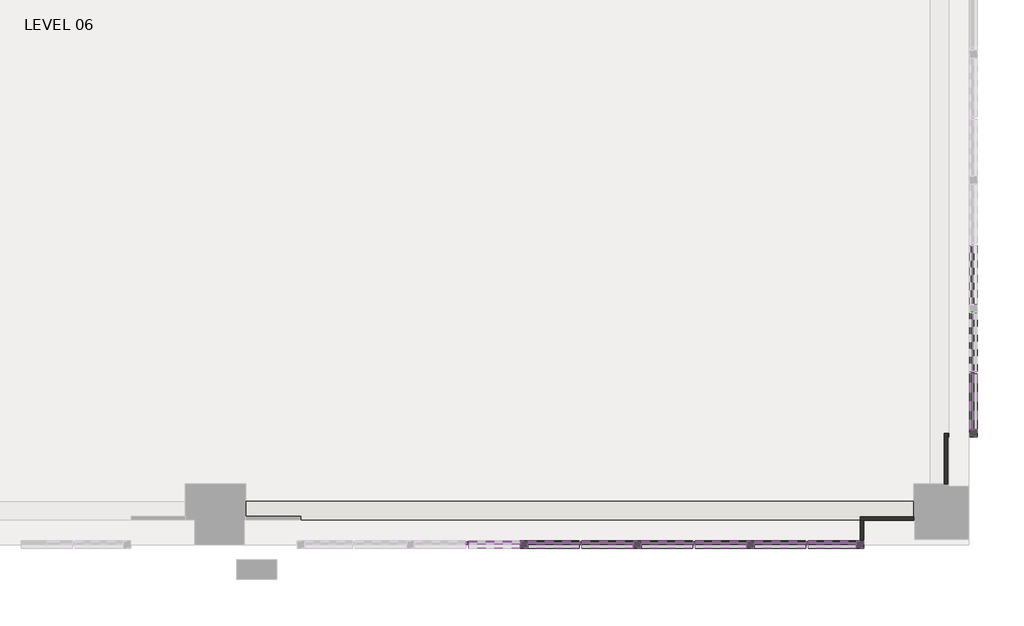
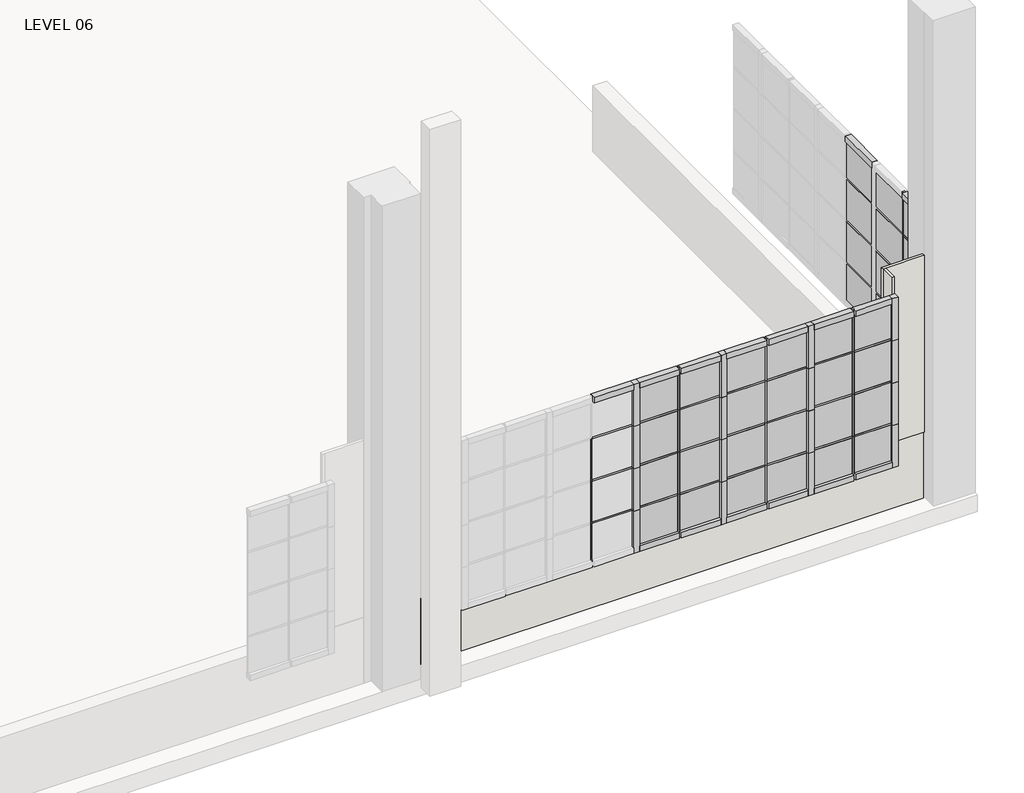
# One storey, part 7 of 16: 80 members, 36 plates, 5 walls.
"""IFC4 building model written with IfcOpenShell, lengths in millimetres."""

from ifc_helpers import new_model, si_unit, frame, origin, place, context, project, spatial, polyline, outline, extrude, faceted_brep, transform, mapped, element, save
from components import member_78bb2ef1, member_cb03ba1c, member_aa53491b, member_0337d645, member_c1b5942e, member_9d26962d, member_378e0c06, member_17eb62f4, member_d1b01063, member_a415275a, system_panel_glazed_79ade883, system_panel_glazed_12cc9f41, system_panel_glazed_730530c4, system_panel_glazed_b8d6571b, system_panel_glazed_fe6fc7be, system_panel_glazed_a8cc2c5f, system_panel_glazed_92f702fb, system_panel_glazed_d94367f6

model = new_model("IFC4")

# Units and contexts
model_context = context("Model", 3, world=origin())
ifc_project = project(units=[si_unit("LENGTHUNIT", "METRE", prefix="MILLI")], contexts=[model_context])

# Site, building, storey
site = spatial("IfcSite", under=ifc_project)
building = spatial("IfcBuilding", under=site)
storey = spatial("IfcBuildingStorey", under=building, Name="LEVEL 06", Elevation=17449.8)

# Members
placement = place(None, origin())
member_shape = member_78bb2ef1(model_context)
element("IfcMember", 1, ObjectType="Rectangular Mullion : 1\" x 1\" - Butt Joint", at=placement, inside=storey, context=model_context, shape_type="MappedRepresentation", body=[
    mapped(member_shape, transform((-4380.1471136, -25119.8112062, 19989.8), x_axis=(1.0, 0.0, 0.0), y_axis=(0.0, -1.0, 0.0), z_axis=(0.0, 0.0, -1.0))),
])
element("IfcMember", 2, ObjectType="Rectangular Mullion : 1\" x 1\" - Butt Joint", at=placement, inside=storey, context=model_context, shape_type="MappedRepresentation", body=[
    mapped(member_shape, transform((-3242.2271136, -25119.8112062, 19989.8), x_axis=(1.0, 0.0, 0.0), y_axis=(0.0, -1.0, 0.0), z_axis=(0.0, 0.0, -1.0))),
])
element("IfcMember", 3, ObjectType="Rectangular Mullion : 1\" x 1\" - Butt Joint", at=placement, inside=storey, context=model_context, shape_type="MappedRepresentation", body=[
    mapped(member_shape, transform((-2104.3071136, -25119.8112062, 19989.8), x_axis=(1.0, 0.0, 0.0), y_axis=(0.0, -1.0, 0.0), z_axis=(0.0, 0.0, -1.0))),
])
element("IfcMember", 4, ObjectType="Rectangular Mullion : 1\" x 1\" - Butt Joint", at=placement, inside=storey, context=model_context, shape_type="MappedRepresentation", body=[
    mapped(member_shape, transform((-445.6849596, -23406.9972314, 19989.8), x_axis=(0.0, 1.0, 0.0), y_axis=(1.0, 0.0, 0.0), z_axis=(0.0, 0.0, -1.0))),
])
member_2_shape = member_cb03ba1c(model_context)
element("IfcMember", 5, ObjectType="Rectangular Mullion : 1\" x 1\" - Butt Joint", at=placement, inside=storey, context=model_context, shape_type="MappedRepresentation", body=[
    mapped(member_2_shape, transform((-2711.3671136, -25119.8112062, 19989.8), x_axis=(0.0, 0.0, 1.0), y_axis=(0.0, -1.0, 0.0), z_axis=(1.0, 0.0, 0.0))),
])
element("IfcMember", 6, ObjectType="Rectangular Mullion : 1\" x 1\" - Butt Joint", at=placement, inside=storey, context=model_context, shape_type="MappedRepresentation", body=[
    mapped(member_2_shape, transform((-3849.2871136, -25119.8112062, 19989.8), x_axis=(0.0, 0.0, 1.0), y_axis=(0.0, -1.0, 0.0), z_axis=(1.0, 0.0, 0.0))),
])
element("IfcMember", 7, ObjectType="Rectangular Mullion : 1\" x 1\" - Butt Joint", at=placement, inside=storey, context=model_context, shape_type="MappedRepresentation", body=[
    mapped(member_2_shape, transform((-4987.2071136, -25119.8112062, 19989.8), x_axis=(0.0, 0.0, 1.0), y_axis=(0.0, -1.0, 0.0), z_axis=(1.0, 0.0, 0.0))),
])
element("IfcMember", 8, ObjectType="Rectangular Mullion : 1\" x 1\" - Butt Joint", at=placement, inside=storey, context=model_context, shape_type="MappedRepresentation", body=[
    mapped(member_2_shape, transform((-2117.0071136, -25119.8112062, 19989.8), x_axis=(0.0, 0.0, 1.0), y_axis=(0.0, -1.0, 0.0), z_axis=(1.0, 0.0, 0.0))),
])
element("IfcMember", 9, ObjectType="Rectangular Mullion : 1\" x 1\" - Butt Joint", at=placement, inside=storey, context=model_context, shape_type="MappedRepresentation", body=[
    mapped(member_2_shape, transform((-3254.9271136, -25119.8112062, 19989.8), x_axis=(0.0, 0.0, 1.0), y_axis=(0.0, -1.0, 0.0), z_axis=(1.0, 0.0, 0.0))),
])
element("IfcMember", 10, ObjectType="Rectangular Mullion : 1\" x 1\" - Butt Joint", at=placement, inside=storey, context=model_context, shape_type="MappedRepresentation", body=[
    mapped(member_2_shape, transform((-4392.8471136, -25119.8112062, 19989.8), x_axis=(0.0, 0.0, 1.0), y_axis=(0.0, -1.0, 0.0), z_axis=(1.0, 0.0, 0.0))),
])
element("IfcMember", 11, ObjectType="Rectangular Mullion : 1\" x 1\" - Butt Joint", at=placement, inside=storey, context=model_context, shape_type="MappedRepresentation", body=[
    mapped(member_2_shape, transform((-2711.3671136, -25119.8112062, 19405.6), x_axis=(0.0, 0.0, 1.0), y_axis=(0.0, -1.0, 0.0), z_axis=(1.0, 0.0, 0.0))),
])
element("IfcMember", 12, ObjectType="Rectangular Mullion : 1\" x 1\" - Butt Joint", at=placement, inside=storey, context=model_context, shape_type="MappedRepresentation", body=[
    mapped(member_2_shape, transform((-3849.2871136, -25119.8112062, 19405.6), x_axis=(0.0, 0.0, 1.0), y_axis=(0.0, -1.0, 0.0), z_axis=(1.0, 0.0, 0.0))),
])
element("IfcMember", 13, ObjectType="Rectangular Mullion : 1\" x 1\" - Butt Joint", at=placement, inside=storey, context=model_context, shape_type="MappedRepresentation", body=[
    mapped(member_2_shape, transform((-4987.2071136, -25119.8112062, 19405.6), x_axis=(0.0, 0.0, 1.0), y_axis=(0.0, -1.0, 0.0), z_axis=(1.0, 0.0, 0.0))),
])
element("IfcMember", 14, ObjectType="Rectangular Mullion : 1\" x 1\" - Butt Joint", at=placement, inside=storey, context=model_context, shape_type="MappedRepresentation", body=[
    mapped(member_2_shape, transform((-2117.0071136, -25119.8112062, 19405.6), x_axis=(0.0, 0.0, 1.0), y_axis=(0.0, -1.0, 0.0), z_axis=(1.0, 0.0, 0.0))),
])
element("IfcMember", 15, ObjectType="Rectangular Mullion : 1\" x 1\" - Butt Joint", at=placement, inside=storey, context=model_context, shape_type="MappedRepresentation", body=[
    mapped(member_2_shape, transform((-3254.9271136, -25119.8112062, 19405.6), x_axis=(0.0, 0.0, 1.0), y_axis=(0.0, -1.0, 0.0), z_axis=(1.0, 0.0, 0.0))),
])
element("IfcMember", 16, ObjectType="Rectangular Mullion : 1\" x 1\" - Butt Joint", at=placement, inside=storey, context=model_context, shape_type="MappedRepresentation", body=[
    mapped(member_2_shape, transform((-4392.8471136, -25119.8112062, 19405.6), x_axis=(0.0, 0.0, 1.0), y_axis=(0.0, -1.0, 0.0), z_axis=(1.0, 0.0, 0.0))),
])
element("IfcMember", 17, ObjectType="Rectangular Mullion : 1\" x 1\" - Butt Joint", at=placement, inside=storey, context=model_context, shape_type="MappedRepresentation", body=[
    mapped(member_2_shape, transform((-2711.3671136, -25119.8112062, 18821.4), x_axis=(0.0, 0.0, 1.0), y_axis=(0.0, -1.0, 0.0), z_axis=(1.0, 0.0, 0.0))),
])
element("IfcMember", 18, ObjectType="Rectangular Mullion : 1\" x 1\" - Butt Joint", at=placement, inside=storey, context=model_context, shape_type="MappedRepresentation", body=[
    mapped(member_2_shape, transform((-3849.2871136, -25119.8112062, 18821.4), x_axis=(0.0, 0.0, 1.0), y_axis=(0.0, -1.0, 0.0), z_axis=(1.0, 0.0, 0.0))),
])
element("IfcMember", 19, ObjectType="Rectangular Mullion : 1\" x 1\" - Butt Joint", at=placement, inside=storey, context=model_context, shape_type="MappedRepresentation", body=[
    mapped(member_2_shape, transform((-4987.2071136, -25119.8112062, 18821.4), x_axis=(0.0, 0.0, 1.0), y_axis=(0.0, -1.0, 0.0), z_axis=(1.0, 0.0, 0.0))),
])
element("IfcMember", 20, ObjectType="Rectangular Mullion : 1\" x 1\" - Butt Joint", at=placement, inside=storey, context=model_context, shape_type="MappedRepresentation", body=[
    mapped(member_2_shape, transform((-2117.0071136, -25119.8112062, 18821.4), x_axis=(0.0, 0.0, 1.0), y_axis=(0.0, -1.0, 0.0), z_axis=(1.0, 0.0, 0.0))),
])
element("IfcMember", 21, ObjectType="Rectangular Mullion : 1\" x 1\" - Butt Joint", at=placement, inside=storey, context=model_context, shape_type="MappedRepresentation", body=[
    mapped(member_2_shape, transform((-3254.9271136, -25119.8112062, 18821.4), x_axis=(0.0, 0.0, 1.0), y_axis=(0.0, -1.0, 0.0), z_axis=(1.0, 0.0, 0.0))),
])
element("IfcMember", 22, ObjectType="Rectangular Mullion : 1\" x 1\" - Butt Joint", at=placement, inside=storey, context=model_context, shape_type="MappedRepresentation", body=[
    mapped(member_2_shape, transform((-4392.8471136, -25119.8112062, 18821.4), x_axis=(0.0, 0.0, 1.0), y_axis=(0.0, -1.0, 0.0), z_axis=(1.0, 0.0, 0.0))),
])
member_3_shape = member_aa53491b(model_context)
element("IfcMember", 23, ObjectType="Rectangular Mullion : 1\" x 1\" - Butt Joint", at=placement, inside=storey, context=model_context, shape_type="MappedRepresentation", body=[
    mapped(member_3_shape, transform((-1611.5471136, -25119.8112062, 19989.8), x_axis=(0.0, 0.0, 1.0), y_axis=(0.0, -1.0, 0.0), z_axis=(1.0, 0.0, 0.0))),
])
element("IfcMember", 24, ObjectType="Rectangular Mullion : 1\" x 1\" - Butt Joint", at=placement, inside=storey, context=model_context, shape_type="MappedRepresentation", body=[
    mapped(member_3_shape, transform((-1611.5471136, -25119.8112062, 19405.6), x_axis=(0.0, 0.0, 1.0), y_axis=(0.0, -1.0, 0.0), z_axis=(1.0, 0.0, 0.0))),
])
element("IfcMember", 25, ObjectType="Rectangular Mullion : 1\" x 1\" - Butt Joint", at=placement, inside=storey, context=model_context, shape_type="MappedRepresentation", body=[
    mapped(member_3_shape, transform((-1611.5471136, -25119.8112062, 18821.4), x_axis=(0.0, 0.0, 1.0), y_axis=(0.0, -1.0, 0.0), z_axis=(1.0, 0.0, 0.0))),
])
element("IfcMember", 26, ObjectType="Rectangular Mullion : 1\" x 1\" - Butt Joint", at=placement, inside=storey, context=model_context, shape_type="MappedRepresentation", body=[
    mapped(member_shape, transform((-5518.0671136, -25119.8112062, 19405.6), x_axis=(1.0, 0.0, 0.0), y_axis=(0.0, -1.0, 0.0), z_axis=(0.0, 0.0, -1.0))),
])
element("IfcMember", 27, ObjectType="Rectangular Mullion : 1\" x 1\" - Butt Joint", at=placement, inside=storey, context=model_context, shape_type="MappedRepresentation", body=[
    mapped(member_shape, transform((-5518.0671136, -25119.8112062, 18821.4), x_axis=(1.0, 0.0, 0.0), y_axis=(0.0, -1.0, 0.0), z_axis=(0.0, 0.0, -1.0))),
])
element("IfcMember", 28, ObjectType="Rectangular Mullion : 1\" x 1\" - Butt Joint", at=placement, inside=storey, context=model_context, shape_type="MappedRepresentation", body=[
    mapped(member_shape, transform((-4380.1471136, -25119.8112062, 19405.6), x_axis=(1.0, 0.0, 0.0), y_axis=(0.0, -1.0, 0.0), z_axis=(0.0, 0.0, -1.0))),
])
element("IfcMember", 29, ObjectType="Rectangular Mullion : 1\" x 1\" - Butt Joint", at=placement, inside=storey, context=model_context, shape_type="MappedRepresentation", body=[
    mapped(member_shape, transform((-4380.1471136, -25119.8112062, 18821.4), x_axis=(1.0, 0.0, 0.0), y_axis=(0.0, -1.0, 0.0), z_axis=(0.0, 0.0, -1.0))),
])
element("IfcMember", 30, ObjectType="Rectangular Mullion : 1\" x 1\" - Butt Joint", at=placement, inside=storey, context=model_context, shape_type="MappedRepresentation", body=[
    mapped(member_shape, transform((-3242.2271136, -25119.8112062, 19405.6), x_axis=(1.0, 0.0, 0.0), y_axis=(0.0, -1.0, 0.0), z_axis=(0.0, 0.0, -1.0))),
])
element("IfcMember", 31, ObjectType="Rectangular Mullion : 1\" x 1\" - Butt Joint", at=placement, inside=storey, context=model_context, shape_type="MappedRepresentation", body=[
    mapped(member_shape, transform((-3242.2271136, -25119.8112062, 18821.4), x_axis=(1.0, 0.0, 0.0), y_axis=(0.0, -1.0, 0.0), z_axis=(0.0, 0.0, -1.0))),
])
element("IfcMember", 32, ObjectType="Rectangular Mullion : 1\" x 1\" - Butt Joint", at=placement, inside=storey, context=model_context, shape_type="MappedRepresentation", body=[
    mapped(member_shape, transform((-2104.3071136, -25119.8112062, 19405.6), x_axis=(1.0, 0.0, 0.0), y_axis=(0.0, -1.0, 0.0), z_axis=(0.0, 0.0, -1.0))),
])
element("IfcMember", 33, ObjectType="Rectangular Mullion : 1\" x 1\" - Butt Joint", at=placement, inside=storey, context=model_context, shape_type="MappedRepresentation", body=[
    mapped(member_shape, transform((-2104.3071136, -25119.8112062, 18821.4), x_axis=(1.0, 0.0, 0.0), y_axis=(0.0, -1.0, 0.0), z_axis=(0.0, 0.0, -1.0))),
])
element("IfcMember", 34, ObjectType="Rectangular Mullion : 1\" x 1\" - Butt Joint", at=placement, inside=storey, context=model_context, shape_type="MappedRepresentation", body=[
    mapped(member_shape, transform((-445.6849596, -23406.9972314, 18821.4), x_axis=(0.0, 1.0, 0.0), y_axis=(1.0, 0.0, 0.0), z_axis=(0.0, 0.0, -1.0))),
])
element("IfcMember", 35, ObjectType="Rectangular Mullion : 1\" x 1\" - Butt Joint", at=placement, inside=storey, context=model_context, shape_type="MappedRepresentation", body=[
    mapped(member_shape, transform((-445.6849596, -23406.9972314, 19405.6), x_axis=(0.0, 1.0, 0.0), y_axis=(1.0, 0.0, 0.0), z_axis=(0.0, 0.0, -1.0))),
])
element("IfcMember", 36, ObjectType="Rectangular Mullion : 1\" x 1\" - Butt Joint", at=placement, inside=storey, context=model_context, shape_type="MappedRepresentation", body=[
    mapped(member_shape, transform((-5518.0671136, -25119.8112062, 18237.2), x_axis=(1.0, 0.0, 0.0), y_axis=(0.0, -1.0, 0.0), z_axis=(0.0, 0.0, -1.0))),
])
element("IfcMember", 37, ObjectType="Rectangular Mullion : 1\" x 1\" - Butt Joint", at=placement, inside=storey, context=model_context, shape_type="MappedRepresentation", body=[
    mapped(member_shape, transform((-4380.1471136, -25119.8112062, 18237.2), x_axis=(1.0, 0.0, 0.0), y_axis=(0.0, -1.0, 0.0), z_axis=(0.0, 0.0, -1.0))),
])
element("IfcMember", 38, ObjectType="Rectangular Mullion : 1\" x 1\" - Butt Joint", at=placement, inside=storey, context=model_context, shape_type="MappedRepresentation", body=[
    mapped(member_shape, transform((-3242.2271136, -25119.8112062, 18237.2), x_axis=(1.0, 0.0, 0.0), y_axis=(0.0, -1.0, 0.0), z_axis=(0.0, 0.0, -1.0))),
])
element("IfcMember", 39, ObjectType="Rectangular Mullion : 1\" x 1\" - Butt Joint", at=placement, inside=storey, context=model_context, shape_type="MappedRepresentation", body=[
    mapped(member_shape, transform((-2104.3071136, -25119.8112062, 18237.2), x_axis=(1.0, 0.0, 0.0), y_axis=(0.0, -1.0, 0.0), z_axis=(0.0, 0.0, -1.0))),
])
element("IfcMember", 40, ObjectType="Rectangular Mullion : 1\" x 1\" - Butt Joint", at=placement, inside=storey, context=model_context, shape_type="MappedRepresentation", body=[
    mapped(member_shape, transform((-445.6849596, -23406.9972314, 18237.2), x_axis=(0.0, 1.0, 0.0), y_axis=(1.0, 0.0, 0.0), z_axis=(0.0, 0.0, -1.0))),
])
member_4_shape = member_0337d645(model_context)
element("IfcMember", 41, ObjectType="Rectangular Mullion : 1\" x 1\" - Butt Joint", at=placement, inside=storey, context=model_context, shape_type="MappedRepresentation", body=[
    mapped(member_4_shape, transform((-445.6849596, -23419.6972314, 19989.8), x_axis=(0.0, 0.0, 1.0), y_axis=(1.0, 0.0, 0.0), z_axis=(0.0, 1.0, 0.0))),
])
element("IfcMember", 42, ObjectType="Rectangular Mullion : 1\" x 1\" - Butt Joint", at=placement, inside=storey, context=model_context, shape_type="MappedRepresentation", body=[
    mapped(member_4_shape, transform((-445.6849596, -23419.6972314, 19405.6), x_axis=(0.0, 0.0, 1.0), y_axis=(1.0, 0.0, 0.0), z_axis=(0.0, 1.0, 0.0))),
])
element("IfcMember", 43, ObjectType="Rectangular Mullion : 1\" x 1\" - Butt Joint", at=placement, inside=storey, context=model_context, shape_type="MappedRepresentation", body=[
    mapped(member_4_shape, transform((-445.6849596, -23419.6972314, 18821.4), x_axis=(0.0, 0.0, 1.0), y_axis=(1.0, 0.0, 0.0), z_axis=(0.0, 1.0, 0.0))),
])
member_5_shape = member_c1b5942e(model_context)
element("IfcMember", 44, ObjectType="Rectangular Mullion : 3\" x 3\" Window Jamb", at=placement, inside=storey, context=model_context, shape_type="MappedRepresentation", body=[
    mapped(member_5_shape, transform((-3229.5271136, -25119.8112062, 18237.2), x_axis=(0.0, 0.0, -1.0), y_axis=(0.0, -1.0, 0.0), z_axis=(-1.0, 0.0, 0.0))),
])
element("IfcMember", 45, ObjectType="Rectangular Mullion : 3\" x 3\" Window Jamb", at=placement, inside=storey, context=model_context, shape_type="MappedRepresentation", body=[
    mapped(member_5_shape, transform((-4367.4471136, -25119.8112062, 18237.2), x_axis=(0.0, 0.0, -1.0), y_axis=(0.0, -1.0, 0.0), z_axis=(-1.0, 0.0, 0.0))),
])
element("IfcMember", 46, ObjectType="Rectangular Mullion : 3\" x 3\" Window Jamb", at=placement, inside=storey, context=model_context, shape_type="MappedRepresentation", body=[
    mapped(member_5_shape, transform((-2635.1671136, -25119.8112062, 18237.2), x_axis=(0.0, 0.0, -1.0), y_axis=(0.0, -1.0, 0.0), z_axis=(-1.0, 0.0, 0.0))),
])
element("IfcMember", 47, ObjectType="Rectangular Mullion : 3\" x 3\" Window Jamb", at=placement, inside=storey, context=model_context, shape_type="MappedRepresentation", body=[
    mapped(member_5_shape, transform((-3773.0871136, -25119.8112062, 18237.2), x_axis=(0.0, 0.0, -1.0), y_axis=(0.0, -1.0, 0.0), z_axis=(-1.0, 0.0, 0.0))),
])
element("IfcMember", 48, ObjectType="Rectangular Mullion : 3\" x 3\" Window Jamb", at=placement, inside=storey, context=model_context, shape_type="MappedRepresentation", body=[
    mapped(member_5_shape, transform((-4911.0071136, -25119.8112062, 18237.2), x_axis=(0.0, 0.0, -1.0), y_axis=(0.0, -1.0, 0.0), z_axis=(-1.0, 0.0, 0.0))),
])
member_6_shape = member_9d26962d(model_context)
element("IfcMember", 49, ObjectType="Rectangular Mullion : 3\" x 3\" Window Jamb", at=placement, inside=storey, context=model_context, shape_type="MappedRepresentation", body=[
    mapped(member_6_shape, transform((-2091.6071136, -25119.8112062, 18237.2), x_axis=(0.0, 0.0, -1.0), y_axis=(0.0, -1.0, 0.0), z_axis=(-1.0, 0.0, 0.0))),
])
element("IfcMember", 50, ObjectType="Rectangular Mullion : 3\" x 3\" Window Jamb", at=placement, inside=storey, context=model_context, shape_type="MappedRepresentation", body=[
    mapped(member_6_shape, transform((-1611.5471136, -25119.8112062, 20574.0), x_axis=(0.0, 0.0, 1.0), y_axis=(0.0, -1.0, 0.0), z_axis=(1.0, 0.0, 0.0))),
])
element("IfcMember", 51, ObjectType="Rectangular Mullion : 3\" x 3\" Window Jamb", at=placement, inside=storey, context=model_context, shape_type="MappedRepresentation", body=[
    mapped(member_5_shape, transform((-2117.0071136, -25119.8112062, 20574.0), x_axis=(0.0, 0.0, 1.0), y_axis=(0.0, -1.0, 0.0), z_axis=(1.0, 0.0, 0.0))),
])
element("IfcMember", 52, ObjectType="Rectangular Mullion : 3\" x 3\" Window Jamb", at=placement, inside=storey, context=model_context, shape_type="MappedRepresentation", body=[
    mapped(member_5_shape, transform((-3254.9271136, -25119.8112062, 20574.0), x_axis=(0.0, 0.0, 1.0), y_axis=(0.0, -1.0, 0.0), z_axis=(1.0, 0.0, 0.0))),
])
element("IfcMember", 53, ObjectType="Rectangular Mullion : 3\" x 3\" Window Jamb", at=placement, inside=storey, context=model_context, shape_type="MappedRepresentation", body=[
    mapped(member_5_shape, transform((-4392.8471136, -25119.8112062, 20574.0), x_axis=(0.0, 0.0, 1.0), y_axis=(0.0, -1.0, 0.0), z_axis=(1.0, 0.0, 0.0))),
])
element("IfcMember", 54, ObjectType="Rectangular Mullion : 3\" x 3\" Window Jamb", at=placement, inside=storey, context=model_context, shape_type="MappedRepresentation", body=[
    mapped(member_5_shape, transform((-2711.3671136, -25119.8112062, 20574.0), x_axis=(0.0, 0.0, 1.0), y_axis=(0.0, -1.0, 0.0), z_axis=(1.0, 0.0, 0.0))),
])
element("IfcMember", 55, ObjectType="Rectangular Mullion : 3\" x 3\" Window Jamb", at=placement, inside=storey, context=model_context, shape_type="MappedRepresentation", body=[
    mapped(member_5_shape, transform((-3849.2871136, -25119.8112062, 20574.0), x_axis=(0.0, 0.0, 1.0), y_axis=(0.0, -1.0, 0.0), z_axis=(1.0, 0.0, 0.0))),
])
element("IfcMember", 56, ObjectType="Rectangular Mullion : 3\" x 3\" Window Jamb", at=placement, inside=storey, context=model_context, shape_type="MappedRepresentation", body=[
    mapped(member_5_shape, transform((-4987.2071136, -25119.8112062, 20574.0), x_axis=(0.0, 0.0, 1.0), y_axis=(0.0, -1.0, 0.0), z_axis=(1.0, 0.0, 0.0))),
])
member_7_shape = member_378e0c06(model_context)
element("IfcMember", 57, ObjectType="Rectangular Mullion : 3\" x 3\" Window Jamb", at=placement, inside=storey, context=model_context, shape_type="MappedRepresentation", body=[
    mapped(member_7_shape, transform((-4949.1071136, -25119.8112062, 19989.8), x_axis=(1.0, 0.0, 0.0), y_axis=(0.0, -1.0, 0.0), z_axis=(0.0, 0.0, -1.0))),
])
element("IfcMember", 58, ObjectType="Rectangular Mullion : 3\" x 3\" Window Jamb", at=placement, inside=storey, context=model_context, shape_type="MappedRepresentation", body=[
    mapped(member_7_shape, transform((-3811.1871136, -25119.8112062, 19989.8), x_axis=(1.0, 0.0, 0.0), y_axis=(0.0, -1.0, 0.0), z_axis=(0.0, 0.0, -1.0))),
])
element("IfcMember", 59, ObjectType="Rectangular Mullion : 3\" x 3\" Window Jamb", at=placement, inside=storey, context=model_context, shape_type="MappedRepresentation", body=[
    mapped(member_7_shape, transform((-2673.2671136, -25119.8112062, 19989.8), x_axis=(1.0, 0.0, 0.0), y_axis=(0.0, -1.0, 0.0), z_axis=(0.0, 0.0, -1.0))),
])
member_8_shape = member_17eb62f4(model_context)
element("IfcMember", 60, ObjectType="Rectangular Mullion : 3\" x 3\" Window Jamb", at=placement, inside=storey, context=model_context, shape_type="MappedRepresentation", body=[
    mapped(member_8_shape, transform((-1535.3471136, -25119.8112062, 19989.8), x_axis=(1.0, 0.0, 0.0), y_axis=(0.0, -1.0, 0.0), z_axis=(0.0, 0.0, -1.0))),
])
element("IfcMember", 61, ObjectType="Rectangular Mullion : 3\" x 3\" Window Jamb", at=placement, inside=storey, context=model_context, shape_type="MappedRepresentation", body=[
    mapped(member_8_shape, transform((-445.6849596, -24052.1572314, 20574.0), x_axis=(0.0, -1.0, 0.0), y_axis=(1.0, 0.0, 0.0), z_axis=(0.0, 0.0, 1.0))),
])
element("IfcMember", 62, ObjectType="Rectangular Mullion : 3\" x 3\" Window Jamb", at=placement, inside=storey, context=model_context, shape_type="MappedRepresentation", body=[
    mapped(member_7_shape, transform((-4949.1071136, -25119.8112062, 19405.6), x_axis=(1.0, 0.0, 0.0), y_axis=(0.0, -1.0, 0.0), z_axis=(0.0, 0.0, -1.0))),
])
element("IfcMember", 63, ObjectType="Rectangular Mullion : 3\" x 3\" Window Jamb", at=placement, inside=storey, context=model_context, shape_type="MappedRepresentation", body=[
    mapped(member_7_shape, transform((-4949.1071136, -25119.8112062, 18821.4), x_axis=(1.0, 0.0, 0.0), y_axis=(0.0, -1.0, 0.0), z_axis=(0.0, 0.0, -1.0))),
])
element("IfcMember", 64, ObjectType="Rectangular Mullion : 3\" x 3\" Window Jamb", at=placement, inside=storey, context=model_context, shape_type="MappedRepresentation", body=[
    mapped(member_7_shape, transform((-3811.1871136, -25119.8112062, 19405.6), x_axis=(1.0, 0.0, 0.0), y_axis=(0.0, -1.0, 0.0), z_axis=(0.0, 0.0, -1.0))),
])
element("IfcMember", 65, ObjectType="Rectangular Mullion : 3\" x 3\" Window Jamb", at=placement, inside=storey, context=model_context, shape_type="MappedRepresentation", body=[
    mapped(member_7_shape, transform((-3811.1871136, -25119.8112062, 18821.4), x_axis=(1.0, 0.0, 0.0), y_axis=(0.0, -1.0, 0.0), z_axis=(0.0, 0.0, -1.0))),
])
element("IfcMember", 66, ObjectType="Rectangular Mullion : 3\" x 3\" Window Jamb", at=placement, inside=storey, context=model_context, shape_type="MappedRepresentation", body=[
    mapped(member_7_shape, transform((-2673.2671136, -25119.8112062, 19405.6), x_axis=(1.0, 0.0, 0.0), y_axis=(0.0, -1.0, 0.0), z_axis=(0.0, 0.0, -1.0))),
])
element("IfcMember", 67, ObjectType="Rectangular Mullion : 3\" x 3\" Window Jamb", at=placement, inside=storey, context=model_context, shape_type="MappedRepresentation", body=[
    mapped(member_7_shape, transform((-2673.2671136, -25119.8112062, 18821.4), x_axis=(1.0, 0.0, 0.0), y_axis=(0.0, -1.0, 0.0), z_axis=(0.0, 0.0, -1.0))),
])
element("IfcMember", 68, ObjectType="Rectangular Mullion : 3\" x 3\" Window Jamb", at=placement, inside=storey, context=model_context, shape_type="MappedRepresentation", body=[
    mapped(member_8_shape, transform((-1535.3471136, -25119.8112062, 19405.6), x_axis=(1.0, 0.0, 0.0), y_axis=(0.0, -1.0, 0.0), z_axis=(0.0, 0.0, -1.0))),
])
element("IfcMember", 69, ObjectType="Rectangular Mullion : 3\" x 3\" Window Jamb", at=placement, inside=storey, context=model_context, shape_type="MappedRepresentation", body=[
    mapped(member_8_shape, transform((-1535.3471136, -25119.8112062, 18821.4), x_axis=(1.0, 0.0, 0.0), y_axis=(0.0, -1.0, 0.0), z_axis=(0.0, 0.0, -1.0))),
])
element("IfcMember", 70, ObjectType="Rectangular Mullion : 3\" x 3\" Window Jamb", at=placement, inside=storey, context=model_context, shape_type="MappedRepresentation", body=[
    mapped(member_8_shape, transform((-445.6849596, -24052.1572314, 19989.8), x_axis=(0.0, -1.0, 0.0), y_axis=(1.0, 0.0, 0.0), z_axis=(0.0, 0.0, 1.0))),
])
element("IfcMember", 71, ObjectType="Rectangular Mullion : 3\" x 3\" Window Jamb", at=placement, inside=storey, context=model_context, shape_type="MappedRepresentation", body=[
    mapped(member_8_shape, transform((-445.6849596, -24052.1572314, 19405.6), x_axis=(0.0, -1.0, 0.0), y_axis=(1.0, 0.0, 0.0), z_axis=(0.0, 0.0, 1.0))),
])
element("IfcMember", 72, ObjectType="Rectangular Mullion : 3\" x 3\" Window Jamb", at=placement, inside=storey, context=model_context, shape_type="MappedRepresentation", body=[
    mapped(member_7_shape, transform((-4949.1071136, -25119.8112062, 18237.2), x_axis=(1.0, 0.0, 0.0), y_axis=(0.0, -1.0, 0.0), z_axis=(0.0, 0.0, -1.0))),
])
element("IfcMember", 73, ObjectType="Rectangular Mullion : 3\" x 3\" Window Jamb", at=placement, inside=storey, context=model_context, shape_type="MappedRepresentation", body=[
    mapped(member_7_shape, transform((-3811.1871136, -25119.8112062, 18237.2), x_axis=(1.0, 0.0, 0.0), y_axis=(0.0, -1.0, 0.0), z_axis=(0.0, 0.0, -1.0))),
])
element("IfcMember", 74, ObjectType="Rectangular Mullion : 3\" x 3\" Window Jamb", at=placement, inside=storey, context=model_context, shape_type="MappedRepresentation", body=[
    mapped(member_7_shape, transform((-2673.2671136, -25119.8112062, 18237.2), x_axis=(1.0, 0.0, 0.0), y_axis=(0.0, -1.0, 0.0), z_axis=(0.0, 0.0, -1.0))),
])
element("IfcMember", 75, ObjectType="Rectangular Mullion : 3\" x 3\" Window Jamb", at=placement, inside=storey, context=model_context, shape_type="MappedRepresentation", body=[
    mapped(member_8_shape, transform((-1535.3471136, -25119.8112062, 18237.2), x_axis=(1.0, 0.0, 0.0), y_axis=(0.0, -1.0, 0.0), z_axis=(0.0, 0.0, -1.0))),
])
element("IfcMember", 76, ObjectType="Rectangular Mullion : 3\" x 3\" Window Jamb", at=placement, inside=storey, context=model_context, shape_type="MappedRepresentation", body=[
    mapped(member_8_shape, transform((-445.6849596, -24052.1572314, 18821.4), x_axis=(0.0, -1.0, 0.0), y_axis=(1.0, 0.0, 0.0), z_axis=(0.0, 0.0, 1.0))),
])
member_9_shape = member_d1b01063(model_context)
element("IfcMember", 77, ObjectType="Rectangular Mullion : 3\" x 3\" Window Jamb", at=placement, inside=storey, context=model_context, shape_type="MappedRepresentation", body=[
    mapped(member_9_shape, transform((-445.6849596, -23419.6972314, 20574.0), x_axis=(0.0, 0.0, 1.0), y_axis=(1.0, 0.0, 0.0), z_axis=(0.0, 1.0, 0.0))),
])
member_10_shape = member_a415275a(model_context)
element("IfcMember", 78, ObjectType="Rectangular Mullion : 3\" x 3\" Window Jamb", at=placement, inside=storey, context=model_context, shape_type="MappedRepresentation", body=[
    mapped(member_10_shape, transform((-445.6849596, -22129.3772314, 20574.0), x_axis=(0.0, 0.0, 1.0), y_axis=(1.0, 0.0, 0.0), z_axis=(0.0, 1.0, 0.0))),
])
element("IfcMember", 79, ObjectType="Rectangular Mullion : 3\" x 3\" Window Jamb", at=placement, inside=storey, context=model_context, shape_type="MappedRepresentation", body=[
    mapped(member_10_shape, transform((-445.6849596, -23394.2972314, 18237.2), x_axis=(0.0, 0.0, -1.0), y_axis=(1.0, 0.0, 0.0), z_axis=(0.0, -1.0, 0.0))),
])
element("IfcMember", 80, ObjectType="Rectangular Mullion : 3\" x 3\" Window Jamb", at=placement, inside=storey, context=model_context, shape_type="MappedRepresentation", body=[
    mapped(member_9_shape, transform((-445.6849596, -23975.9572314, 18237.2), x_axis=(0.0, 0.0, -1.0), y_axis=(1.0, 0.0, 0.0), z_axis=(0.0, -1.0, 0.0))),
])

# Plates
system_panel_glazed_shape = system_panel_glazed_79ade883(model_context)
element("IfcPlate", 81, ObjectType="System Panel : Glazed", at=placement, inside=storey, context=model_context, shape_type="MappedRepresentation", body=[
    mapped(system_panel_glazed_shape, transform((-1851.5771136, -25119.8112062, 18313.4), x_axis=(1.0, 0.0, 0.0), y_axis=(0.0, 1.0, 0.0), z_axis=(0.0, 0.0, 1.0))),
])
element("IfcPlate", 82, ObjectType="System Panel : Glazed", at=placement, inside=storey, context=model_context, shape_type="MappedRepresentation", body=[
    mapped(system_panel_glazed_shape, transform((-1851.5771136, -25119.8112062, 20002.5), x_axis=(1.0, 0.0, 0.0), y_axis=(0.0, 1.0, 0.0), z_axis=(0.0, 0.0, 1.0))),
])
system_panel_glazed_2_shape = system_panel_glazed_12cc9f41(model_context)
element("IfcPlate", 83, ObjectType="System Panel : Glazed", at=placement, inside=storey, context=model_context, shape_type="MappedRepresentation", body=[
    mapped(system_panel_glazed_2_shape, transform((-4651.9271136, -25119.8112062, 18313.4), x_axis=(1.0, 0.0, 0.0), y_axis=(0.0, 1.0, 0.0), z_axis=(0.0, 0.0, 1.0))),
])
element("IfcPlate", 84, ObjectType="System Panel : Glazed", at=placement, inside=storey, context=model_context, shape_type="MappedRepresentation", body=[
    mapped(system_panel_glazed_2_shape, transform((-3514.0071136, -25119.8112062, 18313.4), x_axis=(1.0, 0.0, 0.0), y_axis=(0.0, 1.0, 0.0), z_axis=(0.0, 0.0, 1.0))),
])
element("IfcPlate", 85, ObjectType="System Panel : Glazed", at=placement, inside=storey, context=model_context, shape_type="MappedRepresentation", body=[
    mapped(system_panel_glazed_2_shape, transform((-2376.0871136, -25119.8112062, 18313.4), x_axis=(1.0, 0.0, 0.0), y_axis=(0.0, 1.0, 0.0), z_axis=(0.0, 0.0, 1.0))),
])
element("IfcPlate", 86, ObjectType="System Panel : Glazed", at=placement, inside=storey, context=model_context, shape_type="MappedRepresentation", body=[
    mapped(system_panel_glazed_2_shape, transform((-4651.9271136, -25119.8112062, 20002.5), x_axis=(1.0, 0.0, 0.0), y_axis=(0.0, 1.0, 0.0), z_axis=(0.0, 0.0, 1.0))),
])
element("IfcPlate", 87, ObjectType="System Panel : Glazed", at=placement, inside=storey, context=model_context, shape_type="MappedRepresentation", body=[
    mapped(system_panel_glazed_2_shape, transform((-3514.0071136, -25119.8112062, 20002.5), x_axis=(1.0, 0.0, 0.0), y_axis=(0.0, 1.0, 0.0), z_axis=(0.0, 0.0, 1.0))),
])
element("IfcPlate", 88, ObjectType="System Panel : Glazed", at=placement, inside=storey, context=model_context, shape_type="MappedRepresentation", body=[
    mapped(system_panel_glazed_2_shape, transform((-2376.0871136, -25119.8112062, 20002.5), x_axis=(1.0, 0.0, 0.0), y_axis=(0.0, 1.0, 0.0), z_axis=(0.0, 0.0, 1.0))),
])
element("IfcPlate", 89, ObjectType="System Panel : Glazed", at=placement, inside=storey, context=model_context, shape_type="MappedRepresentation", body=[
    mapped(system_panel_glazed_2_shape, transform((-4108.3671136, -25119.8112062, 18313.4), x_axis=(1.0, 0.0, 0.0), y_axis=(0.0, 1.0, 0.0), z_axis=(0.0, 0.0, 1.0))),
])
element("IfcPlate", 90, ObjectType="System Panel : Glazed", at=placement, inside=storey, context=model_context, shape_type="MappedRepresentation", body=[
    mapped(system_panel_glazed_2_shape, transform((-4108.3671136, -25119.8112062, 20002.5), x_axis=(1.0, 0.0, 0.0), y_axis=(0.0, 1.0, 0.0), z_axis=(0.0, 0.0, 1.0))),
])
element("IfcPlate", 91, ObjectType="System Panel : Glazed", at=placement, inside=storey, context=model_context, shape_type="MappedRepresentation", body=[
    mapped(system_panel_glazed_2_shape, transform((-2970.4471136, -25119.8112062, 18313.4), x_axis=(1.0, 0.0, 0.0), y_axis=(0.0, 1.0, 0.0), z_axis=(0.0, 0.0, 1.0))),
])
element("IfcPlate", 92, ObjectType="System Panel : Glazed", at=placement, inside=storey, context=model_context, shape_type="MappedRepresentation", body=[
    mapped(system_panel_glazed_2_shape, transform((-2970.4471136, -25119.8112062, 20002.5), x_axis=(1.0, 0.0, 0.0), y_axis=(0.0, 1.0, 0.0), z_axis=(0.0, 0.0, 1.0))),
])
system_panel_glazed_3_shape = system_panel_glazed_730530c4(model_context)
element("IfcPlate", 93, ObjectType="System Panel : Glazed", at=placement, inside=storey, context=model_context, shape_type="MappedRepresentation", body=[
    mapped(system_panel_glazed_3_shape, transform((-1851.5771136, -25119.8112062, 18834.1), x_axis=(1.0, 0.0, 0.0), y_axis=(0.0, 1.0, 0.0), z_axis=(0.0, 0.0, 1.0))),
])
element("IfcPlate", 94, ObjectType="System Panel : Glazed", at=placement, inside=storey, context=model_context, shape_type="MappedRepresentation", body=[
    mapped(system_panel_glazed_3_shape, transform((-1851.5771136, -25119.8112062, 19418.3), x_axis=(1.0, 0.0, 0.0), y_axis=(0.0, 1.0, 0.0), z_axis=(0.0, 0.0, 1.0))),
])
system_panel_glazed_4_shape = system_panel_glazed_b8d6571b(model_context)
element("IfcPlate", 95, ObjectType="System Panel : Glazed", at=placement, inside=storey, context=model_context, shape_type="MappedRepresentation", body=[
    mapped(system_panel_glazed_4_shape, transform((-4651.9271136, -25119.8112062, 18834.1), x_axis=(1.0, 0.0, 0.0), y_axis=(0.0, 1.0, 0.0), z_axis=(0.0, 0.0, 1.0))),
])
element("IfcPlate", 96, ObjectType="System Panel : Glazed", at=placement, inside=storey, context=model_context, shape_type="MappedRepresentation", body=[
    mapped(system_panel_glazed_4_shape, transform((-3514.0071136, -25119.8112062, 18834.1), x_axis=(1.0, 0.0, 0.0), y_axis=(0.0, 1.0, 0.0), z_axis=(0.0, 0.0, 1.0))),
])
element("IfcPlate", 97, ObjectType="System Panel : Glazed", at=placement, inside=storey, context=model_context, shape_type="MappedRepresentation", body=[
    mapped(system_panel_glazed_4_shape, transform((-2376.0871136, -25119.8112062, 18834.1), x_axis=(1.0, 0.0, 0.0), y_axis=(0.0, 1.0, 0.0), z_axis=(0.0, 0.0, 1.0))),
])
element("IfcPlate", 98, ObjectType="System Panel : Glazed", at=placement, inside=storey, context=model_context, shape_type="MappedRepresentation", body=[
    mapped(system_panel_glazed_4_shape, transform((-4651.9271136, -25119.8112062, 19418.3), x_axis=(1.0, 0.0, 0.0), y_axis=(0.0, 1.0, 0.0), z_axis=(0.0, 0.0, 1.0))),
])
element("IfcPlate", 99, ObjectType="System Panel : Glazed", at=placement, inside=storey, context=model_context, shape_type="MappedRepresentation", body=[
    mapped(system_panel_glazed_4_shape, transform((-3514.0071136, -25119.8112062, 19418.3), x_axis=(1.0, 0.0, 0.0), y_axis=(0.0, 1.0, 0.0), z_axis=(0.0, 0.0, 1.0))),
])
element("IfcPlate", 100, ObjectType="System Panel : Glazed", at=placement, inside=storey, context=model_context, shape_type="MappedRepresentation", body=[
    mapped(system_panel_glazed_4_shape, transform((-2376.0871136, -25119.8112062, 19418.3), x_axis=(1.0, 0.0, 0.0), y_axis=(0.0, 1.0, 0.0), z_axis=(0.0, 0.0, 1.0))),
])
element("IfcPlate", 101, ObjectType="System Panel : Glazed", at=placement, inside=storey, context=model_context, shape_type="MappedRepresentation", body=[
    mapped(system_panel_glazed_4_shape, transform((-4108.3671136, -25119.8112062, 18834.1), x_axis=(1.0, 0.0, 0.0), y_axis=(0.0, 1.0, 0.0), z_axis=(0.0, 0.0, 1.0))),
])
element("IfcPlate", 102, ObjectType="System Panel : Glazed", at=placement, inside=storey, context=model_context, shape_type="MappedRepresentation", body=[
    mapped(system_panel_glazed_4_shape, transform((-4108.3671136, -25119.8112062, 19418.3), x_axis=(1.0, 0.0, 0.0), y_axis=(0.0, 1.0, 0.0), z_axis=(0.0, 0.0, 1.0))),
])
element("IfcPlate", 103, ObjectType="System Panel : Glazed", at=placement, inside=storey, context=model_context, shape_type="MappedRepresentation", body=[
    mapped(system_panel_glazed_4_shape, transform((-2970.4471136, -25119.8112062, 18834.1), x_axis=(1.0, 0.0, 0.0), y_axis=(0.0, 1.0, 0.0), z_axis=(0.0, 0.0, 1.0))),
])
element("IfcPlate", 104, ObjectType="System Panel : Glazed", at=placement, inside=storey, context=model_context, shape_type="MappedRepresentation", body=[
    mapped(system_panel_glazed_4_shape, transform((-2970.4471136, -25119.8112062, 19418.3), x_axis=(1.0, 0.0, 0.0), y_axis=(0.0, 1.0, 0.0), z_axis=(0.0, 0.0, 1.0))),
])
system_panel_glazed_5_shape = system_panel_glazed_fe6fc7be(model_context)
element("IfcPlate", 105, ObjectType="System Panel : Glazed", at=placement, inside=storey, context=model_context, shape_type="MappedRepresentation", body=[
    mapped(system_panel_glazed_5_shape, transform((-445.6849596, -23697.8272314, 18313.4), x_axis=(0.0, 1.0, 0.0), y_axis=(-1.0, 0.0, 0.0), z_axis=(0.0, 0.0, 1.0))),
])
element("IfcPlate", 106, ObjectType="System Panel : Glazed", at=placement, inside=storey, context=model_context, shape_type="MappedRepresentation", body=[
    mapped(system_panel_glazed_5_shape, transform((-445.6849596, -23697.8272314, 20002.5), x_axis=(0.0, 1.0, 0.0), y_axis=(-1.0, 0.0, 0.0), z_axis=(0.0, 0.0, 1.0))),
])
system_panel_glazed_6_shape = system_panel_glazed_a8cc2c5f(model_context)
element("IfcPlate", 107, ObjectType="System Panel : Glazed", at=placement, inside=storey, context=model_context, shape_type="MappedRepresentation", body=[
    mapped(system_panel_glazed_6_shape, transform((-445.6849596, -22426.5572314, 18313.4), x_axis=(0.0, 1.0, 0.0), y_axis=(-1.0, 0.0, 0.0), z_axis=(0.0, 0.0, 1.0))),
])
element("IfcPlate", 108, ObjectType="System Panel : Glazed", at=placement, inside=storey, context=model_context, shape_type="MappedRepresentation", body=[
    mapped(system_panel_glazed_6_shape, transform((-445.6849596, -22426.5572314, 20002.5), x_axis=(0.0, 1.0, 0.0), y_axis=(-1.0, 0.0, 0.0), z_axis=(0.0, 0.0, 1.0))),
])
element("IfcPlate", 109, ObjectType="System Panel : Glazed", at=placement, inside=storey, context=model_context, shape_type="MappedRepresentation", body=[
    mapped(system_panel_glazed_6_shape, transform((-445.6849596, -23097.1172314, 18313.4), x_axis=(0.0, 1.0, 0.0), y_axis=(-1.0, 0.0, 0.0), z_axis=(0.0, 0.0, 1.0))),
])
element("IfcPlate", 110, ObjectType="System Panel : Glazed", at=placement, inside=storey, context=model_context, shape_type="MappedRepresentation", body=[
    mapped(system_panel_glazed_6_shape, transform((-445.6849596, -23097.1172314, 20002.5), x_axis=(0.0, 1.0, 0.0), y_axis=(-1.0, 0.0, 0.0), z_axis=(0.0, 0.0, 1.0))),
])
system_panel_glazed_7_shape = system_panel_glazed_92f702fb(model_context)
element("IfcPlate", 111, ObjectType="System Panel : Glazed", at=placement, inside=storey, context=model_context, shape_type="MappedRepresentation", body=[
    mapped(system_panel_glazed_7_shape, transform((-445.6849596, -23697.8272314, 19418.3), x_axis=(0.0, 1.0, 0.0), y_axis=(-1.0, 0.0, 0.0), z_axis=(0.0, 0.0, 1.0))),
])
element("IfcPlate", 112, ObjectType="System Panel : Glazed", at=placement, inside=storey, context=model_context, shape_type="MappedRepresentation", body=[
    mapped(system_panel_glazed_7_shape, transform((-445.6849596, -23697.8272314, 18834.1), x_axis=(0.0, 1.0, 0.0), y_axis=(-1.0, 0.0, 0.0), z_axis=(0.0, 0.0, 1.0))),
])
system_panel_glazed_8_shape = system_panel_glazed_d94367f6(model_context)
element("IfcPlate", 113, ObjectType="System Panel : Glazed", at=placement, inside=storey, context=model_context, shape_type="MappedRepresentation", body=[
    mapped(system_panel_glazed_8_shape, transform((-445.6849596, -22426.5572314, 19418.3), x_axis=(0.0, 1.0, 0.0), y_axis=(-1.0, 0.0, 0.0), z_axis=(0.0, 0.0, 1.0))),
])
element("IfcPlate", 114, ObjectType="System Panel : Glazed", at=placement, inside=storey, context=model_context, shape_type="MappedRepresentation", body=[
    mapped(system_panel_glazed_8_shape, transform((-445.6849596, -22426.5572314, 18834.1), x_axis=(0.0, 1.0, 0.0), y_axis=(-1.0, 0.0, 0.0), z_axis=(0.0, 0.0, 1.0))),
])
element("IfcPlate", 115, ObjectType="System Panel : Glazed", at=placement, inside=storey, context=model_context, shape_type="MappedRepresentation", body=[
    mapped(system_panel_glazed_8_shape, transform((-445.6849596, -23097.1172314, 18834.1), x_axis=(0.0, 1.0, 0.0), y_axis=(-1.0, 0.0, 0.0), z_axis=(0.0, 0.0, 1.0))),
])
element("IfcPlate", 116, ObjectType="System Panel : Glazed", at=placement, inside=storey, context=model_context, shape_type="MappedRepresentation", body=[
    mapped(system_panel_glazed_8_shape, transform((-445.6849596, -23097.1172314, 19418.3), x_axis=(0.0, 1.0, 0.0), y_axis=(-1.0, 0.0, 0.0), z_axis=(0.0, 0.0, 1.0))),
])

# Walls
element("IfcWall", 117, ObjectType="Partition A6_", at=placement, inside=storey, context=model_context, shape_type="SweptSolid", body=[
    extrude(outline(polyline([(-1036.5369128, -24885.0851345), (-7742.4721136, -24885.0851345), (-7742.4721136, -24700.9351345), (-1036.5369128, -24700.9351345), (-1036.5369128, -24885.0851345)])), frame((0.0, 0.0, 17449.8), z_axis=(0.0, 0.0, 1.0), x_axis=(1.0, 0.0, 0.0)), (0.0, 0.0, 1.0), 914.4),
])
element("IfcWall", 118, ObjectType="Partition F0_", at=placement, inside=storey, context=model_context, shape_type="Brep", body=[
    faceted_brep([(-1573.0245492, -24889.8476345, 18364.2), (-1538.0995492, -24889.8476345, 18364.2), (-1036.5369128, -24889.8476345, 18364.2), (-1036.5369128, -24889.8476345, 20802.6), (-1538.0995492, -24889.8476345, 20802.6), (-1573.0245492, -24889.8476345, 20802.6), (-1573.0245492, -24854.9226345, 18364.2), (-1573.0245492, -24854.9226345, 20802.6), (-1036.5369128, -24854.9226345, 20802.6), (-1036.5369128, -24854.9226345, 18364.2)], [[[0, 1, 2, 3, 4, 5]], [[6, 7, 8, 9]], [[2, 1, 0, 6, 9]], [[3, 2, 9, 8]], [[5, 4, 3, 8, 7]], [[0, 5, 7, 6]]]),
])
element("IfcWall", 119, ObjectType="Partition F0_", at=placement, inside=storey, context=model_context, shape_type="Brep", body=[
    faceted_brep([(-691.7474596, -24526.3101345, 18364.2), (-691.7474596, -24052.1572314, 18364.2), (-691.7474596, -24017.2322314, 18364.2), (-691.7474596, -24017.2322314, 20802.6), (-691.7474596, -24052.1572314, 20802.6), (-691.7474596, -24526.3101345, 20802.6), (-726.6724596, -24526.3101345, 18364.2), (-726.6724596, -24526.3101345, 20802.6), (-726.6724596, -24017.2322314, 20802.6), (-726.6724596, -24017.2322314, 18364.2)], [[[0, 1, 2, 3, 4, 5]], [[6, 7, 8, 9]], [[2, 1, 0, 6, 9]], [[5, 4, 3, 8, 7]], [[0, 5, 7, 6]], [[3, 2, 9, 8]]]),
])
element("IfcWall", 120, ObjectType="Partition F0_", at=placement, inside=storey, context=model_context, shape_type="SweptSolid", body=[
    extrude(outline(polyline([(-683.8099596, -24052.1572314), (-691.7474596, -24052.1572314), (-691.7474596, -24017.2322314), (-683.8099596, -24017.2322314), (-683.8099596, -24052.1572314)])), frame((0.0, 0.0, 18364.2), z_axis=(0.0, 0.0, 1.0), x_axis=(1.0, 0.0, 0.0)), (0.0, 0.0, 1.0), 2438.4),
])
element("IfcWall", 121, ObjectType="Partition F0_", at=placement, inside=storey, context=model_context, shape_type="SweptSolid", body=[
    extrude(outline(polyline([(-1538.0995492, -24889.8476345), (-1538.0995492, -25086.7648215), (-1573.0245492, -25086.7648215), (-1573.0245492, -24889.8476345), (-1538.0995492, -24889.8476345)])), frame((0.0, 0.0, 18364.2), z_axis=(0.0, 0.0, 1.0), x_axis=(1.0, 0.0, 0.0)), (0.0, 0.0, 1.0), 2438.4),
])

save(model, "model.ifc")
